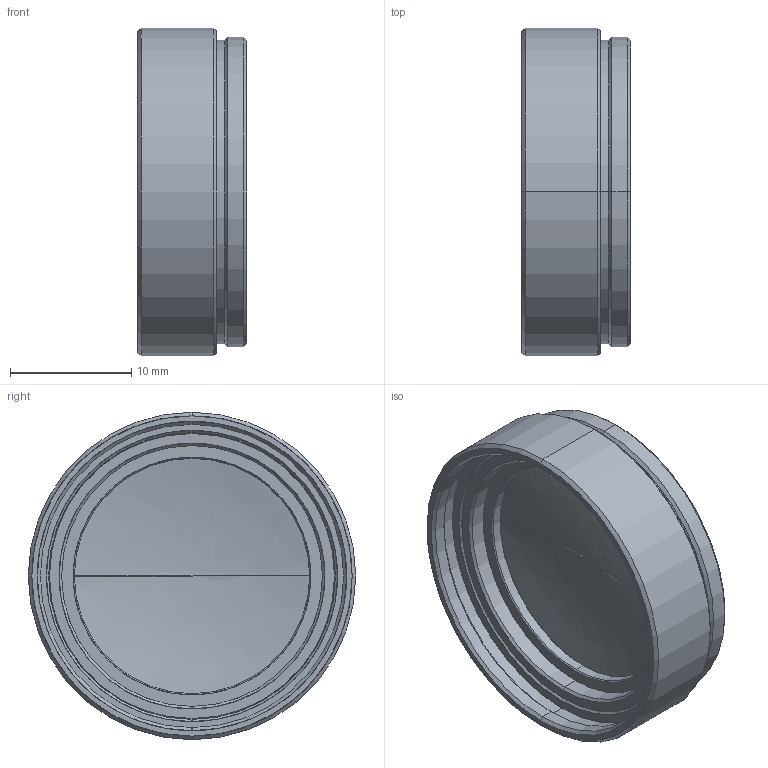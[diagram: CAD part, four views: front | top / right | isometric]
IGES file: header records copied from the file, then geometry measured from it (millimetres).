
Start section: SolidWorks IGES file using analytic representation for surfaces
Global section: file name: \\192.168.1.203\development\04 ズームレンズ\04 6x（VSZ-0745 VSZ-0530 series)\※フロントコンバーター\3D\VSZ-07X.IGS; native system: SolidWorks 2012; preprocessor: SolidWorks 2012; author: Tsuji_vst; date: 130131.115337; units: millimetre
Bounding box: 9 x 27 x 27 mm (x, y, z)
Surface area: 2374.8 mm2 (no closed solid volume)
Topology: 0 solids, 0 shells, 51 faces, 628 edges, 627 vertices
Faces by surface type: revolution 44, bspline 7
